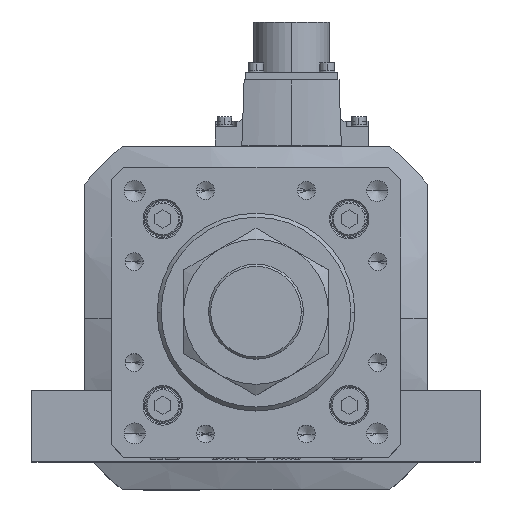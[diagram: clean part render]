
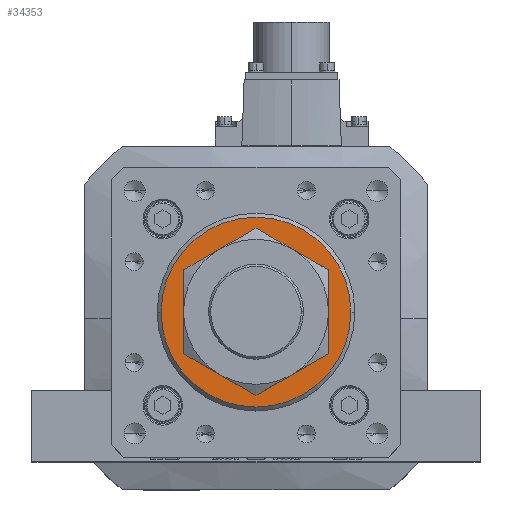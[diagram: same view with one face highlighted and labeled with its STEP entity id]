
A CAD part, top view. The second image highlights one B-rep face of the part: STEP entity #34353.
In plain terms, the highlighted planar face has unit normal (0, 0, 1).
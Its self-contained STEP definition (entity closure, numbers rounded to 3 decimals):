
#125 = ORIENTED_EDGE ( 'NONE', *, *, #7985, .T. ) ;
#416 = DIRECTION ( 'NONE',  ( 1., 0., 0. ) ) ;
#434 = DIRECTION ( 'NONE',  ( 1., 0., 0. ) ) ;
#1040 = CARTESIAN_POINT ( 'NONE',  ( 0., 0., 1046. ) ) ;
#2208 = ORIENTED_EDGE ( 'NONE', *, *, #4522, .T. ) ;
#3682 = DIRECTION ( 'NONE',  ( 0., 0., -1. ) ) ;
#3735 = DIRECTION ( 'NONE',  ( 0., 0., 1. ) ) ;
#4522 = EDGE_CURVE ( 'NONE', #15202, #25527, #31950, .T. ) ;
#5290 = CARTESIAN_POINT ( 'NONE',  ( -23., 0., 1046. ) ) ;
#5639 = AXIS2_PLACEMENT_3D ( 'NONE', #27051, #3735, #24093 ) ;
#6768 = DIRECTION ( 'NONE',  ( 0., 0., 1. ) ) ;
#7985 = EDGE_CURVE ( 'NONE', #16286, #26068, #29338, .T. ) ;
#8388 = DIRECTION ( 'NONE',  ( 0., 0., -1. ) ) ;
#8498 = CARTESIAN_POINT ( 'NONE',  ( 0., 0., 1046. ) ) ;
#8584 = FACE_BOUND ( 'NONE', #22304, .T. ) ;
#9254 = DIRECTION ( 'NONE',  ( 0., 0., 1. ) ) ;
#10455 = FACE_OUTER_BOUND ( 'NONE', #24597, .T. ) ;
#10630 = ORIENTED_EDGE ( 'NONE', *, *, #32010, .T. ) ;
#13629 = CARTESIAN_POINT ( 'NONE',  ( 23., 0., 1046. ) ) ;
#15202 = VERTEX_POINT ( 'NONE', #5290 ) ;
#15305 = AXIS2_PLACEMENT_3D ( 'NONE', #18226, #3682, #434 ) ;
#16234 = AXIS2_PLACEMENT_3D ( 'NONE', #8498, #8388, #32198 ) ;
#16286 = VERTEX_POINT ( 'NONE', #20775 ) ;
#18226 = CARTESIAN_POINT ( 'NONE',  ( 0., 0., 1046. ) ) ;
#20775 = CARTESIAN_POINT ( 'NONE',  ( 36., 0., 1046. ) ) ;
#21051 = PLANE ( 'NONE',  #24863 ) ;
#21088 = CIRCLE ( 'NONE', #31221, 36. ) ;
#22304 = EDGE_LOOP ( 'NONE', ( #29014, #2208 ) ) ;
#24093 = DIRECTION ( 'NONE',  ( 1., 0., 0. ) ) ;
#24597 = EDGE_LOOP ( 'NONE', ( #10630, #125 ) ) ;
#24745 = DIRECTION ( 'NONE',  ( 1., 0., 0. ) ) ;
#24863 = AXIS2_PLACEMENT_3D ( 'NONE', #26987, #9254, #416 ) ;
#25527 = VERTEX_POINT ( 'NONE', #13629 ) ;
#25736 = CARTESIAN_POINT ( 'NONE',  ( -36., 0., 1046. ) ) ;
#26068 = VERTEX_POINT ( 'NONE', #25736 ) ;
#26987 = CARTESIAN_POINT ( 'NONE',  ( 0., 0., 1046. ) ) ;
#27051 = CARTESIAN_POINT ( 'NONE',  ( 0., 0., 1046. ) ) ;
#29014 = ORIENTED_EDGE ( 'NONE', *, *, #29353, .T. ) ;
#29338 = CIRCLE ( 'NONE', #5639, 36. ) ;
#29353 = EDGE_CURVE ( 'NONE', #25527, #15202, #30961, .T. ) ;
#30961 = CIRCLE ( 'NONE', #15305, 23. ) ;
#31221 = AXIS2_PLACEMENT_3D ( 'NONE', #1040, #6768, #24745 ) ;
#31950 = CIRCLE ( 'NONE', #16234, 23. ) ;
#32010 = EDGE_CURVE ( 'NONE', #26068, #16286, #21088, .T. ) ;
#32198 = DIRECTION ( 'NONE',  ( 1., 0., 0. ) ) ;
#34353 = ADVANCED_FACE ( 'NONE', ( #8584, #10455 ), #21051, .T. ) ;
